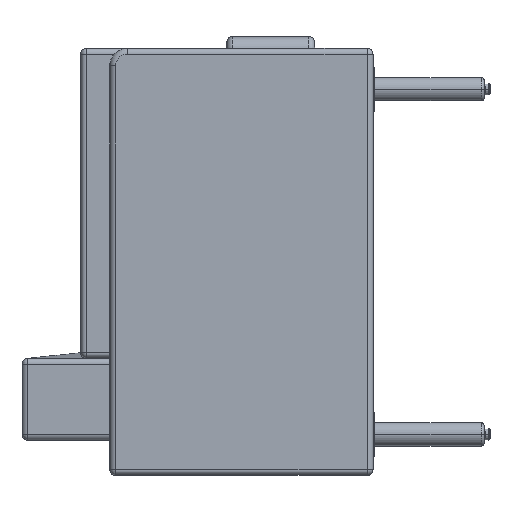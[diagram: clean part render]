
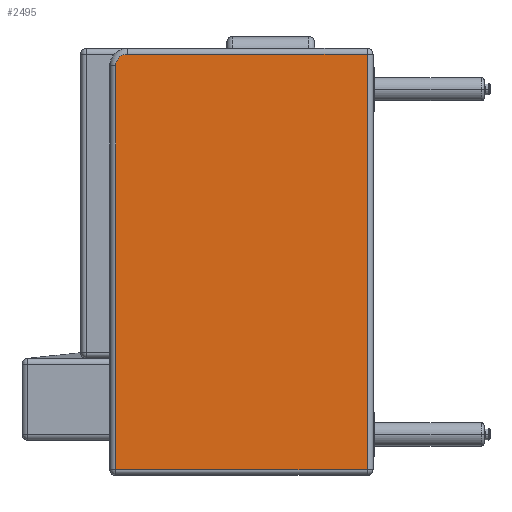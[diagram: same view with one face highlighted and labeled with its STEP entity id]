
A CAD part, left-side view. The second image highlights one B-rep face of the part: STEP entity #2495.
In plain terms, the highlighted planar face has unit normal (-1, 0, 0).
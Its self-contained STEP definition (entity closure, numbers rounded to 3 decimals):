
#104 = DIRECTION ( 'NONE',  ( 1., 0., 0. ) ) ;
#134 = DIRECTION ( 'NONE',  ( 0., 0., 1. ) ) ;
#271 = DIRECTION ( 'NONE',  ( 0., 0., 1. ) ) ;
#341 = DIRECTION ( 'NONE',  ( 0., 1., 0. ) ) ;
#1211 = ORIENTED_EDGE ( 'NONE', *, *, #4064, .F. ) ;
#1340 = CARTESIAN_POINT ( 'NONE',  ( -1000., 10., 335. ) ) ;
#1470 = CARTESIAN_POINT ( 'NONE',  ( -1000., 450., 325. ) ) ;
#1600 = AXIS2_PLACEMENT_3D ( 'NONE', #14476, #104, #10980 ) ;
#1641 = CARTESIAN_POINT ( 'NONE',  ( -1000., 0., 0. ) ) ;
#2447 = CARTESIAN_POINT ( 'NONE',  ( -1000., 440., 305. ) ) ;
#2495 = ADVANCED_FACE ( 'NONE', ( #7455 ), #12523, .T. ) ;
#2612 = AXIS2_PLACEMENT_3D ( 'NONE', #1641, #13704, #271 ) ;
#2623 = LINE ( 'NONE', #8899, #13799 ) ;
#3898 = DIRECTION ( 'NONE',  ( 0., -1., 0. ) ) ;
#4064 = EDGE_CURVE ( 'NONE', #11012, #12987, #15267, .T. ) ;
#5676 = VERTEX_POINT ( 'NONE', #10480 ) ;
#5812 = CARTESIAN_POINT ( 'NONE',  ( -1000., 440., -395. ) ) ;
#6684 = VECTOR ( 'NONE', #134, 1000. ) ;
#7089 = ORIENTED_EDGE ( 'NONE', *, *, #10658, .T. ) ;
#7236 = EDGE_CURVE ( 'NONE', #11012, #7998, #11769, .T. ) ;
#7455 = FACE_OUTER_BOUND ( 'NONE', #11838, .T. ) ;
#7972 = ORIENTED_EDGE ( 'NONE', *, *, #15005, .T. ) ;
#7998 = VERTEX_POINT ( 'NONE', #9328 ) ;
#8434 = VERTEX_POINT ( 'NONE', #9368 ) ;
#8581 = DIRECTION ( 'NONE',  ( 0., 0., -1. ) ) ;
#8899 = CARTESIAN_POINT ( 'NONE',  ( -1000., 0., -385. ) ) ;
#9080 = CARTESIAN_POINT ( 'NONE',  ( -1000., 420., 325. ) ) ;
#9328 = CARTESIAN_POINT ( 'NONE',  ( -1000., 440., -385. ) ) ;
#9368 = CARTESIAN_POINT ( 'NONE',  ( -1000., 10., 325. ) ) ;
#10480 = CARTESIAN_POINT ( 'NONE',  ( -1000., 10., -385. ) ) ;
#10658 = EDGE_CURVE ( 'NONE', #7998, #5676, #2623, .T. ) ;
#10980 = DIRECTION ( 'NONE',  ( 0., 0., 1. ) ) ;
#11012 = VERTEX_POINT ( 'NONE', #2447 ) ;
#11016 = LINE ( 'NONE', #1340, #6684 ) ;
#11379 = LINE ( 'NONE', #1470, #15494 ) ;
#11769 = LINE ( 'NONE', #5812, #11932 ) ;
#11838 = EDGE_LOOP ( 'NONE', ( #1211, #13255, #7089, #15012, #7972 ) ) ;
#11932 = VECTOR ( 'NONE', #8581, 1000. ) ;
#12523 = PLANE ( 'NONE',  #2612 ) ;
#12987 = VERTEX_POINT ( 'NONE', #9080 ) ;
#13255 = ORIENTED_EDGE ( 'NONE', *, *, #7236, .T. ) ;
#13627 = EDGE_CURVE ( 'NONE', #5676, #8434, #11016, .T. ) ;
#13704 = DIRECTION ( 'NONE',  ( -1., 0., 0. ) ) ;
#13799 = VECTOR ( 'NONE', #3898, 1000. ) ;
#14476 = CARTESIAN_POINT ( 'NONE',  ( -1000., 420., 305. ) ) ;
#15005 = EDGE_CURVE ( 'NONE', #8434, #12987, #11379, .T. ) ;
#15012 = ORIENTED_EDGE ( 'NONE', *, *, #13627, .T. ) ;
#15267 = CIRCLE ( 'NONE', #1600, 20. ) ;
#15494 = VECTOR ( 'NONE', #341, 1000. ) ;
